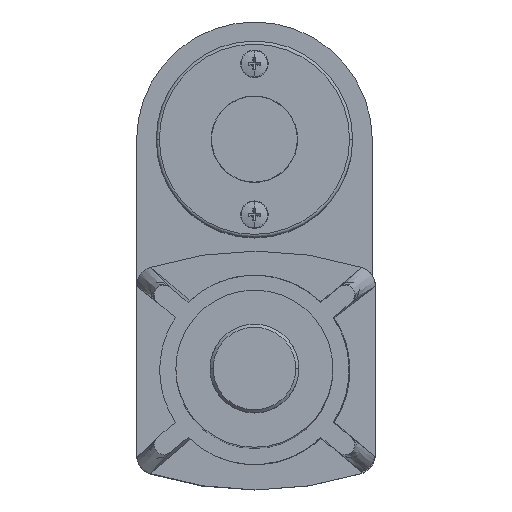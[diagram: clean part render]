
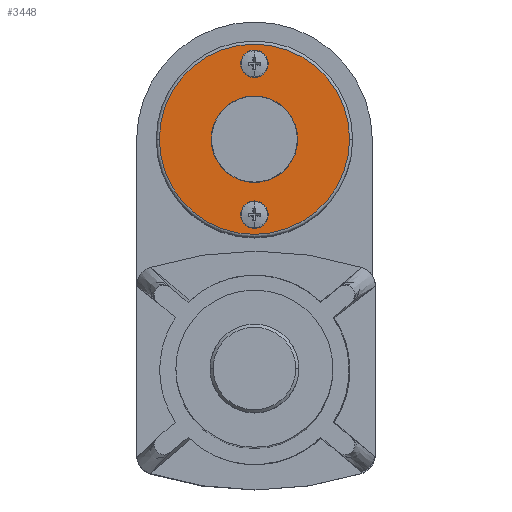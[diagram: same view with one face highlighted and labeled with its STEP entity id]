
A CAD part, top view. The second image highlights one B-rep face of the part: STEP entity #3448.
In plain terms, the highlighted planar face has unit normal (0, 0, 1).
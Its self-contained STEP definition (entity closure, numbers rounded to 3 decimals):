
#89 = EDGE_CURVE ( 'NONE', #2939, #2584, #11320, .T. ) ;
#144 = DIRECTION ( 'NONE',  ( 0., 0., 1. ) ) ;
#263 = DIRECTION ( 'NONE',  ( -1., 0., 0. ) ) ;
#289 = DIRECTION ( 'NONE',  ( -1., 0., 0. ) ) ;
#407 = DIRECTION ( 'NONE',  ( 0., 0., 1. ) ) ;
#482 = CARTESIAN_POINT ( 'NONE',  ( 38.608, -31.638, 406.098 ) ) ;
#581 = EDGE_CURVE ( 'NONE', #8195, #4949, #1272, .T. ) ;
#702 = DIRECTION ( 'NONE',  ( -1., 0., 0. ) ) ;
#808 = FACE_BOUND ( 'NONE', #1466, .T. ) ;
#924 = CARTESIAN_POINT ( 'NONE',  ( 36.068, -7.238, 406.098 ) ) ;
#1270 = AXIS2_PLACEMENT_3D ( 'NONE', #11194, #5850, #702 ) ;
#1272 = CIRCLE ( 'NONE', #11045, 2.54 ) ;
#1466 = EDGE_LOOP ( 'NONE', ( #6091, #5871 ) ) ;
#1481 = CIRCLE ( 'NONE', #1270, 2.54 ) ;
#1904 = DIRECTION ( 'NONE',  ( -1., 0., 0. ) ) ;
#2020 = DIRECTION ( 'NONE',  ( 0., 0., 1. ) ) ;
#2073 = CIRCLE ( 'NONE', #5552, 2.54 ) ;
#2150 = DIRECTION ( 'NONE',  ( -1., 0., 0. ) ) ;
#2301 = AXIS2_PLACEMENT_3D ( 'NONE', #9099, #2020, #263 ) ;
#2584 = VERTEX_POINT ( 'NONE', #5716 ) ;
#2786 = CARTESIAN_POINT ( 'NONE',  ( 38.608, -56.038, 406.098 ) ) ;
#2899 = DIRECTION ( 'NONE',  ( 0., 0., 1. ) ) ;
#2939 = VERTEX_POINT ( 'NONE', #11134 ) ;
#3191 = EDGE_CURVE ( 'NONE', #2584, #2939, #7658, .T. ) ;
#3333 = VERTEX_POINT ( 'NONE', #10918 ) ;
#3448 = ADVANCED_FACE ( 'NONE', ( #808, #11361, #7517 ), #6575, .T. ) ;
#4162 = AXIS2_PLACEMENT_3D ( 'NONE', #9195, #8350, #2150 ) ;
#4173 = EDGE_LOOP ( 'NONE', ( #8542, #7196 ) ) ;
#4286 = CARTESIAN_POINT ( 'NONE',  ( 41.148, -7.238, 406.098 ) ) ;
#4323 = ORIENTED_EDGE ( 'NONE', *, *, #581, .F. ) ;
#4712 = CARTESIAN_POINT ( 'NONE',  ( 38.608, -7.238, 406.098 ) ) ;
#4949 = VERTEX_POINT ( 'NONE', #4286 ) ;
#5128 = EDGE_CURVE ( 'NONE', #8315, #3333, #2073, .T. ) ;
#5449 = CARTESIAN_POINT ( 'NONE',  ( 41.148, -56.038, 406.098 ) ) ;
#5552 = AXIS2_PLACEMENT_3D ( 'NONE', #2786, #144, #8927 ) ;
#5716 = CARTESIAN_POINT ( 'NONE',  ( 7.858, -31.638, 406.098 ) ) ;
#5850 = DIRECTION ( 'NONE',  ( 0., 0., 1. ) ) ;
#5871 = ORIENTED_EDGE ( 'NONE', *, *, #5128, .F. ) ;
#6091 = ORIENTED_EDGE ( 'NONE', *, *, #7695, .F. ) ;
#6274 = CIRCLE ( 'NONE', #8881, 2.54 ) ;
#6388 = EDGE_CURVE ( 'NONE', #4949, #8195, #6274, .T. ) ;
#6575 = PLANE ( 'NONE',  #4162 ) ;
#7196 = ORIENTED_EDGE ( 'NONE', *, *, #89, .T. ) ;
#7207 = CARTESIAN_POINT ( 'NONE',  ( 38.608, -7.238, 406.098 ) ) ;
#7409 = DIRECTION ( 'NONE',  ( -1., 0., 0. ) ) ;
#7517 = FACE_OUTER_BOUND ( 'NONE', #4173, .T. ) ;
#7658 = CIRCLE ( 'NONE', #8923, 30.75 ) ;
#7695 = EDGE_CURVE ( 'NONE', #3333, #8315, #1481, .T. ) ;
#8195 = VERTEX_POINT ( 'NONE', #924 ) ;
#8269 = EDGE_LOOP ( 'NONE', ( #4323, #9418 ) ) ;
#8315 = VERTEX_POINT ( 'NONE', #5449 ) ;
#8350 = DIRECTION ( 'NONE',  ( 0., 0., 1. ) ) ;
#8542 = ORIENTED_EDGE ( 'NONE', *, *, #3191, .T. ) ;
#8789 = DIRECTION ( 'NONE',  ( 0., 0., 1. ) ) ;
#8881 = AXIS2_PLACEMENT_3D ( 'NONE', #4712, #2899, #289 ) ;
#8923 = AXIS2_PLACEMENT_3D ( 'NONE', #482, #407, #7409 ) ;
#8927 = DIRECTION ( 'NONE',  ( -1., 0., 0. ) ) ;
#9099 = CARTESIAN_POINT ( 'NONE',  ( 38.608, -31.638, 406.098 ) ) ;
#9195 = CARTESIAN_POINT ( 'NONE',  ( 38.608, -31.638, 406.098 ) ) ;
#9418 = ORIENTED_EDGE ( 'NONE', *, *, #6388, .F. ) ;
#10918 = CARTESIAN_POINT ( 'NONE',  ( 36.068, -56.038, 406.098 ) ) ;
#11045 = AXIS2_PLACEMENT_3D ( 'NONE', #7207, #8789, #1904 ) ;
#11134 = CARTESIAN_POINT ( 'NONE',  ( 69.358, -31.638, 406.098 ) ) ;
#11194 = CARTESIAN_POINT ( 'NONE',  ( 38.608, -56.038, 406.098 ) ) ;
#11320 = CIRCLE ( 'NONE', #2301, 30.75 ) ;
#11361 = FACE_BOUND ( 'NONE', #8269, .T. ) ;
